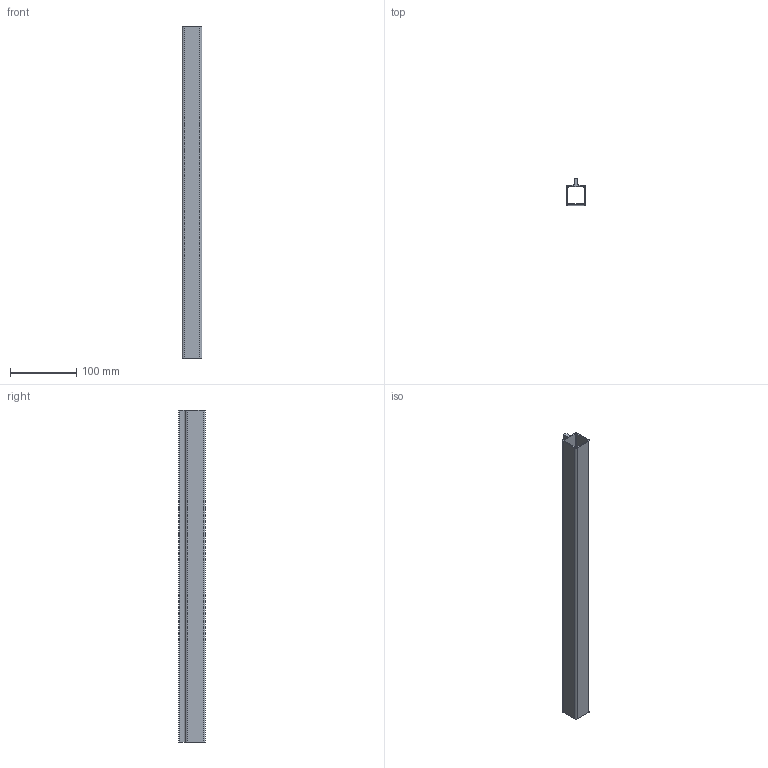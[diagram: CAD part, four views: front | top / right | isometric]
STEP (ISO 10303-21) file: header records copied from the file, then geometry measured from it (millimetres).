
FILE_DESCRIPTION (( 'STEP AP214' ), '1' );
FILE_NAME ('A40767.step', '2024-12-03T16:12:47', ( '' ), ( '' ), 'SwSTEP 2.0', 'SolidWorks 2023', '' );
FILE_SCHEMA (( 'AUTOMOTIVE_DESIGN' ));
Length unit declared in the file: millimetre
Products named in the file (1): A40767
Bounding box: 30 x 39.92 x 500 mm (x, y, z)
Volume: 134834.5 mm3; surface area: 116682.1 mm2
Topology: 1 solids, 1 shells, 28 faces, 78 edges, 52 vertices
Faces by surface type: plane 15, cylinder 13
Entity records: 935 total; most frequent: DIRECTION 162, CARTESIAN_POINT 159, ORIENTED_EDGE 156, EDGE_CURVE 78, AXIS2_PLACEMENT_3D 55, VERTEX_POINT 52, VECTOR 52, LINE 52
